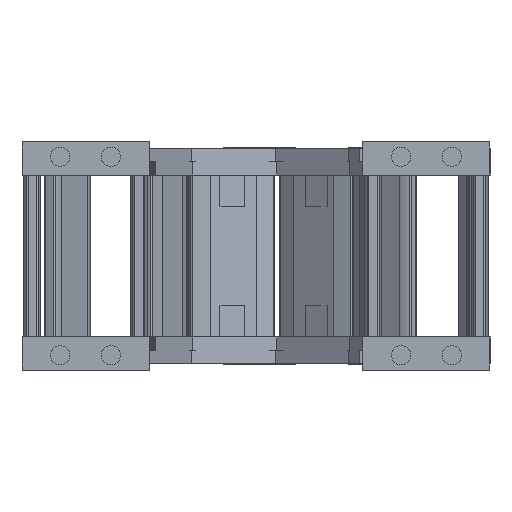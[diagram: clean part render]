
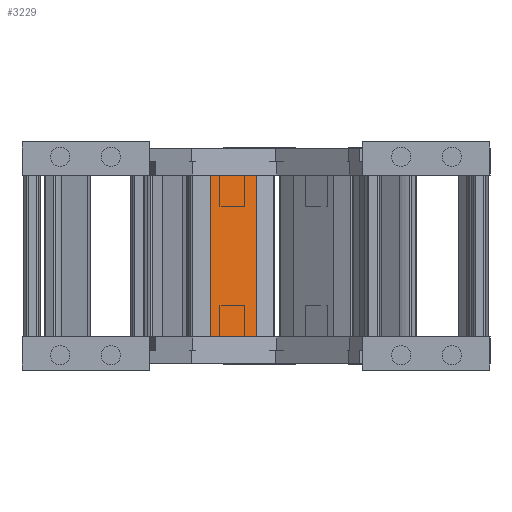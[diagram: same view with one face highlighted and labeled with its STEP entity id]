
A CAD part, left-side view. The second image highlights one B-rep face of the part: STEP entity #3229.
In plain terms, the highlighted planar face has unit normal (-0.962, -0.273, 0) as drawn and (0, -1, 0) by its records, which use the part's own axes.
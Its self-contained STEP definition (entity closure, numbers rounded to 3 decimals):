
#2783=DIRECTION('',(0.,0.,-1.));
#2784=VECTOR('',#2783,15.);
#2785=CARTESIAN_POINT('',(-13.5,0.,7.5));
#2786=LINE('',#2785,#2784);
#2870=DIRECTION('',(-1.,0.,0.));
#2871=VECTOR('',#2870,51.);
#2872=CARTESIAN_POINT('',(37.5,0.,-7.5));
#2873=LINE('',#2872,#2871);
#2877=DIRECTION('',(1.,0.,0.));
#2878=VECTOR('',#2877,51.);
#2879=CARTESIAN_POINT('',(-13.5,0.,7.5));
#2880=LINE('',#2879,#2878);
#2884=DIRECTION('',(0.,0.,-1.));
#2885=VECTOR('',#2884,15.);
#2886=CARTESIAN_POINT('',(37.5,0.,7.5));
#2887=LINE('',#2886,#2885);
#3002=CARTESIAN_POINT('',(37.5,0.,7.5));
#3003=CARTESIAN_POINT('',(37.5,0.,-7.5));
#3004=VERTEX_POINT('',#3002);
#3005=VERTEX_POINT('',#3003);
#3026=CARTESIAN_POINT('',(-13.5,0.,-7.5));
#3027=VERTEX_POINT('',#3026);
#3028=CARTESIAN_POINT('',(-13.5,0.,7.5));
#3029=VERTEX_POINT('',#3028);
#3216=CARTESIAN_POINT('',(6.,0.,0.));
#3217=DIRECTION('',(0.,1.,0.));
#3218=DIRECTION('',(1.,0.,0.));
#3219=AXIS2_PLACEMENT_3D('',#3216,#3217,#3218);
#3220=PLANE('',#3219);
#3221=ORIENTED_EDGE('',*,*,#3202,.T.);
#3222=ORIENTED_EDGE('',*,*,#3067,.F.);
#3224=ORIENTED_EDGE('',*,*,#3223,.T.);
#3226=ORIENTED_EDGE('',*,*,#3225,.T.);
#3227=EDGE_LOOP('',(#3221,#3222,#3224,#3226));
#3228=FACE_OUTER_BOUND('',#3227,.F.);
#3229=ADVANCED_FACE('',(#3228),#3220,.F.);
#3067=EDGE_CURVE('',#3029,#3027,#2786,.T.);
#3202=EDGE_CURVE('',#3005,#3027,#2873,.T.);
#3223=EDGE_CURVE('',#3029,#3004,#2880,.T.);
#3225=EDGE_CURVE('',#3004,#3005,#2887,.T.);
